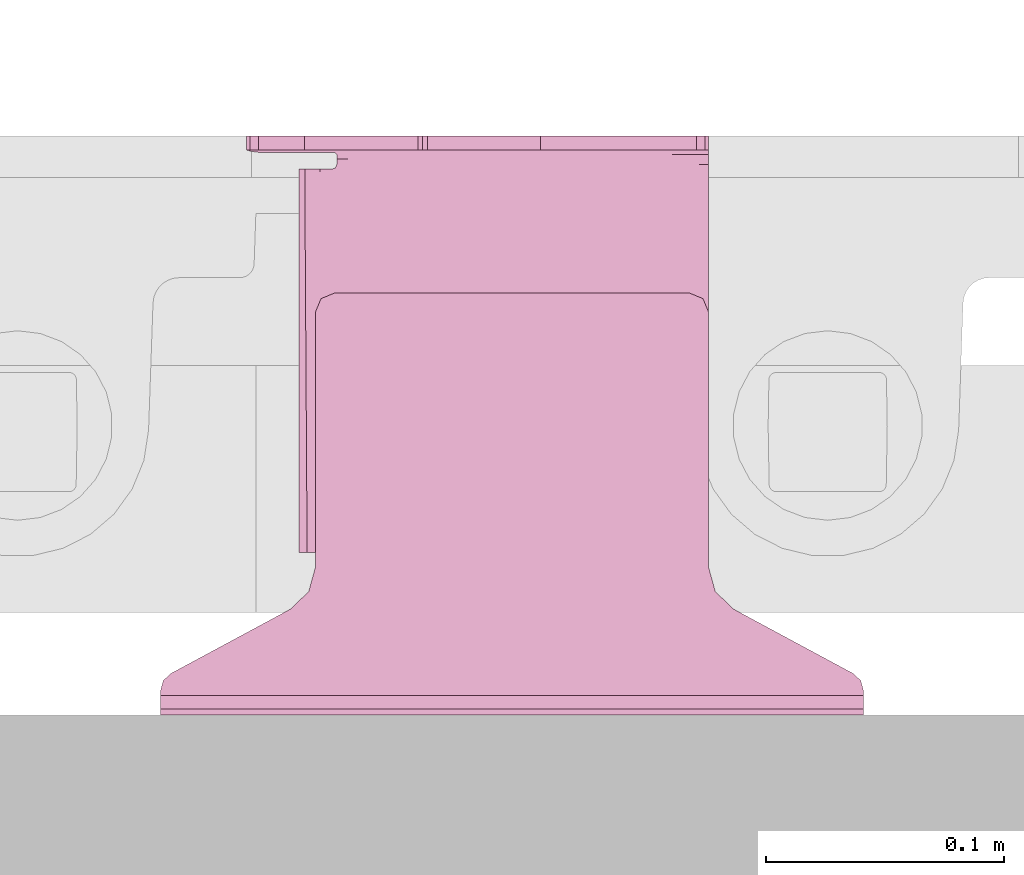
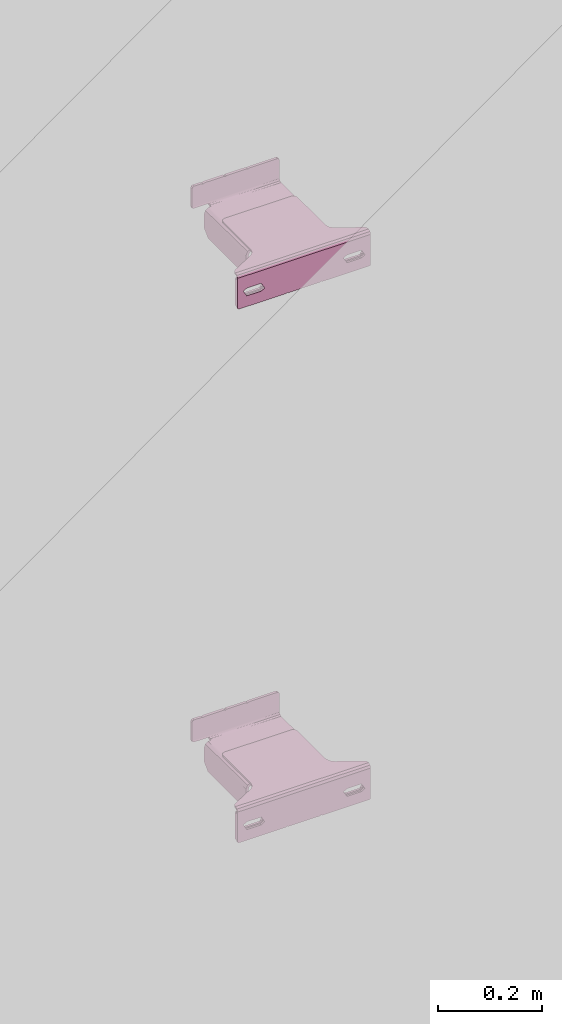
# One storey, part 11 of 15: 2 transport elements.
"""IFC2X3 building model written with IfcOpenShell, lengths in millimetres."""

from ifc_helpers import new_model, entity, si_unit, converted_unit, derived_unit, direction, frame, origin, place, context, subcontext, project, spatial, faceted_brep, source, transform, mapped, material, type_object, type_shapes, element, save


model = new_model("IFC2X3")

# Units and contexts
model_context = context("Model", 3, precision=0.01, world=origin(), true_north=direction((6.12303176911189e-17, 1.0)))
body_context = subcontext(model_context, "Body", "Model", "MODEL_VIEW")
ifc_project = project(units=[si_unit("LENGTHUNIT", "METRE", prefix="MILLI"), si_unit("AREAUNIT", "SQUARE_METRE"), si_unit("VOLUMEUNIT", "CUBIC_METRE"), converted_unit("PLANEANGLEUNIT", "DEGREE", entity("IfcRatioMeasure", 0.0174532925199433), si_unit("PLANEANGLEUNIT", "RADIAN"), dimensions=[0, 0, 0, 0, 0, 0, 0]), si_unit("MASSUNIT", "GRAM", prefix="KILO"), derived_unit("MASSDENSITYUNIT", [(si_unit("MASSUNIT", "GRAM", prefix="KILO"), 1), (si_unit("LENGTHUNIT", "METRE"), -3)]), si_unit("TIMEUNIT", "SECOND"), si_unit("FREQUENCYUNIT", "HERTZ"), si_unit("THERMODYNAMICTEMPERATUREUNIT", "DEGREE_CELSIUS"), derived_unit("THERMALTRANSMITTANCEUNIT", [(si_unit("MASSUNIT", "GRAM", prefix="KILO"), 1), (si_unit("THERMODYNAMICTEMPERATUREUNIT", "KELVIN"), -1), (si_unit("TIMEUNIT", "SECOND"), -3)]), derived_unit("VOLUMETRICFLOWRATEUNIT", [(si_unit("LENGTHUNIT", "METRE"), 3), (si_unit("TIMEUNIT", "SECOND"), -1)]), si_unit("ELECTRICCURRENTUNIT", "AMPERE"), si_unit("ELECTRICVOLTAGEUNIT", "VOLT"), si_unit("POWERUNIT", "WATT"), si_unit("FORCEUNIT", "NEWTON", prefix="KILO"), si_unit("ILLUMINANCEUNIT", "LUX"), si_unit("LUMINOUSFLUXUNIT", "LUMEN"), si_unit("LUMINOUSINTENSITYUNIT", "CANDELA"), derived_unit("USERDEFINED", [(si_unit("MASSUNIT", "GRAM", prefix="KILO"), -1), (si_unit("LENGTHUNIT", "METRE"), -2), (si_unit("TIMEUNIT", "SECOND"), 3), (si_unit("LUMINOUSFLUXUNIT", "LUMEN"), 1)]), derived_unit("LINEARVELOCITYUNIT", [(si_unit("LENGTHUNIT", "METRE"), 1), (si_unit("TIMEUNIT", "SECOND"), -1)]), si_unit("PRESSUREUNIT", "PASCAL"), derived_unit("USERDEFINED", [(si_unit("LENGTHUNIT", "METRE"), -2), (si_unit("MASSUNIT", "GRAM", prefix="KILO"), 1), (si_unit("TIMEUNIT", "SECOND"), -2)])], contexts=[model_context])

# Site, building, storey, space
site_placement = place(None, frame((-151.875543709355, 2715.0, 0.0)))
site = spatial("IfcSite", under=ifc_project, at=site_placement, Name="Surface", CompositionType="ELEMENT")
building_placement = place(site_placement, origin())
building = spatial("IfcBuilding", under=site, at=building_placement, CompositionType="ELEMENT")
storey_placement = place(building_placement, frame((0.0, 0.0, 7670.0)))
storey = spatial("IfcBuildingStorey", under=building, at=storey_placement, Name="uus 3 korrus", CompositionType="ELEMENT", Elevation=7670.00000000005)
space_placement = place(storey_placement, origin())
space = spatial("IfcSpace", under=storey, at=space_placement, Name="327a", CompositionType="ELEMENT", InteriorOrExteriorSpace="INTERNAL")

# Transport elements
ifc_material = material(Name="Generic")
transport_element_type = type_object("IfcTransportElementType", Name="KONE_Combination_Bracket_KM51029396V002_L184-394_LH", material=ifc_material)
shared_shape = source(origin(), body_context, "Body", "Brep", [
    faceted_brep([(194.368600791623, 50.557014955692, -243.0), (197.904134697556, 49.0925488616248, -243.0), (199.368600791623, 45.5570149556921, -243.0), (199.368600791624, 2.55701495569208, -243.0), (5.401799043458, 2.55701495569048, -243.0), (5.37690725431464, 2.84414737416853, -243.0), (5.36860079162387, 3.13223699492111, -243.0), (5.36860079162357, 45.5570149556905, -243.0), (6.83306688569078, 49.0925488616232, -243.0), (10.3686007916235, 50.5570149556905, -243.0), (25.7152888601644, 50.5570149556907, -243.0), (29.8686007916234, 49.0570149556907, -243.0), (34.0219127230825, 50.5570149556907, -243.0), (77.3686007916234, 50.5570149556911, -243.0), (79.3686007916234, 48.5570149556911, -243.0), (81.3686007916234, 50.5570149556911, -243.0), (124.715288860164, 50.5570149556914, -243.0), (128.868600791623, 49.0570149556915, -243.0), (133.021912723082, 50.5570149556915, -243.0), (5.40179904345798, 2.55701495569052, -240.954929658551), (5.40179904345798, 2.55701495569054, -238.909859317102), (5.40179904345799, 2.55701495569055, -237.0), (5.37690725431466, 2.84414737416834, -237.0), (5.36860079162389, 3.13223699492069, -237.0), (39.3686007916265, -9.44298504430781, -68.0), (39.3686007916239, -9.44298504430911, -229.0), (41.3686007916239, -9.4429850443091, -229.0), (42.7828143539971, -9.44298504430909, -229.585786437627), (43.3686007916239, -9.4429850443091, -231.0), (199.368600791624, -9.44298504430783, -231.0), (199.368600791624, -9.44298504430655, -73.0), (197.904134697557, -9.44298504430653, -69.4644660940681), (194.368600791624, -9.44298504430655, -68.0), (33.3686007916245, -61.9785189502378, -81.535533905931), (33.3686007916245, -63.0623827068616, -83.1576506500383), (33.3686007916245, -63.442985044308, -85.0710678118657), (33.3686007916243, -63.442985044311, -211.928932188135), (33.3686007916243, -63.0623827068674, -213.84234934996), (33.3686007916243, -61.9785189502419, -215.464466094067), (33.3686007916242, -49.9074511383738, -227.535533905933), (33.3686007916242, -48.2853343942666, -228.619397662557), (33.3686007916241, -46.3719172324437, -229.0), (33.3686007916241, -37.0182070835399, -229.0), (33.3686007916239, -15.4429850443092, -229.0), (33.3686007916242, -15.4429850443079, -68.0), (33.3686007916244, -46.3719172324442, -68.0), (33.3686007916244, -48.2853343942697, -68.3806023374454), (33.3686007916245, -49.9074511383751, -69.4644660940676), (41.3686007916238, -3.8111214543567, -241.170881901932), (199.368600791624, -5.92826641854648, -239.485281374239), (6.40766390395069, -1.13745775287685, -242.417130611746), (10.3686007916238, -3.81112145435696, -241.170881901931), (8.29850844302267, -2.41379275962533, -241.822205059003), (43.3686007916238, -8.59019143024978, -235.442948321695), (43.3686007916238, -6.15302007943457, -239.254410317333), (43.1522088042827, -5.4728628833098, -239.865440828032), (42.912766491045, -4.72025455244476, -240.541559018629), (42.1406836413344, -4.26568800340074, -240.85622046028), (34.6248743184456, -11.7691506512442, -229.0), (35.1259601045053, -11.2003443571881, -68.0), (37.867620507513, -9.63376322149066, -229.0), (38.612072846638, -9.49087067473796, -229.0), (5.36860079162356, 45.5570149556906, -237.0), (6.8330668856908, 49.0925488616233, -237.0), (10.3686007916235, 50.5570149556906, -237.0), (199.368600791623, 45.5570149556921, -237.0), (199.368600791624, 2.55701495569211, -237.0), (199.368600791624, -1.68562573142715, -235.24264068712), (199.368600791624, -3.44298504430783, -231.0), (199.368600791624, -3.44298504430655, -73.0), (194.368600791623, 50.5570149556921, -237.0), (197.904134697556, 49.0925488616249, -237.0), (124.715288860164, 50.5570149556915, -237.0), (81.3686007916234, 50.5570149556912, -237.0), (133.021912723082, 50.5570149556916, -237.0), (77.3686007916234, 50.5570149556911, -237.0), (34.0219127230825, 50.5570149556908, -237.0), (25.7152888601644, 50.5570149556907, -237.0), (128.868600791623, 49.0570149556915, -237.0), (79.3686007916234, 48.5570149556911, -237.0), (29.8686007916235, 49.0570149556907, -237.0), (39.3686007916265, -6.44298504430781, -68.0), (194.368600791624, -3.44298504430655, -68.0), (39.3686007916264, -3.44298504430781, -68.0), (30.883319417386, -6.9577036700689, -68.0), (27.3686007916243, -15.4429850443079, -68.0), (27.3686007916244, -46.3719172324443, -68.0), (197.904134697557, -3.44298504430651, -69.4644660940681), (27.3686007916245, -46.3719172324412, -229.0), (27.3686007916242, -48.2853343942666, -228.619397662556), (27.3686007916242, -49.9074511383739, -227.535533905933), (27.3686007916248, -61.9785189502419, -215.464466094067), (27.3686007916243, -63.4429850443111, -211.928932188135), (27.3686007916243, -63.0623827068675, -213.84234934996), (27.368600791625, -63.442985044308, -85.0710678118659), (27.3686007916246, -63.0623827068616, -83.1576506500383), (27.3686007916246, -61.9785189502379, -81.5355339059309), (27.3686007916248, -49.9074511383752, -69.4644660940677), (27.3686007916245, -48.2853343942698, -68.3806023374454), (42.782814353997, -3.44298504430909, -229.585786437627), (41.3686007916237, -3.44298504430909, -229.0), (39.3686007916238, -3.44298504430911, -229.0), (43.3686007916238, -3.44298504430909, -231.0), (27.3686007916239, -15.4429850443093, -229.0), (27.3686007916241, -37.01820708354, -229.0), (41.3686007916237, -0.62705324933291, -236.085440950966), (6.19050436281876, 1.51354044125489, -236.776221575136), (7.26141212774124, 0.0967058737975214, -236.472374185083), (10.3686007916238, -0.627053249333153, -236.085440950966), (43.3686007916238, -3.01658823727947, -233.221474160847), (43.3686007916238, -1.79800256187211, -235.127205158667), (42.6856009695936, -0.938930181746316, -235.876306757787), (29.8811478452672, -8.09531625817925, -229.0), (36.366640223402, -3.82454139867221, -229.0), (37.855544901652, -3.53875630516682, -229.0), (30.3686007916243, -37.01820708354, -229.0), (30.368600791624, -15.4429850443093, -229.0), (37.1171303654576, -6.72915231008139, -229.0), (10.3686007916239, -2.7497653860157, -239.475734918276), (41.3686007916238, -3.03001105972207, -239.923329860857), (41.3686007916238, -1.68840931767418, -237.780587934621), (10.3686007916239, -1.68840931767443, -237.780587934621), (43.3686007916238, -2.86998689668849, -236.143113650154), (43.3686007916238, -4.70134757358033, -237.878675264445), (42.9506306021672, -3.05278886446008, -238.263482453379), (42.3310011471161, -2.020127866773, -237.825190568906), (42.96220815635, -2.04723230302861, -236.93741785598), (42.2377280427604, -2.95461684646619, -239.328855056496), (8.43695178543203, -1.96418230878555, -239.076862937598), (6.5068444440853, 0.111398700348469, -238.170030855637), (6.58437608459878, -0.560185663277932, -239.802254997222), (8.3377752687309, -1.05787869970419, -237.540730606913)], [[[0, 1, 2, 3, 4, 5, 6, 7, 8, 9, 10, 11, 12, 13, 14, 15, 16, 17, 18]], [[19, 20, 21, 22, 5, 4]], [[22, 23, 6, 5]], [[24, 25, 26, 27, 28, 29, 30, 31, 32]], [[33, 34, 35, 36, 37, 38, 39, 40, 41, 42, 43, 44, 45, 46, 47]], [[3, 48, 4]], [[48, 3, 49]], [[48, 50, 4]], [[48, 51, 52, 50]], [[49, 29, 53]], [[53, 29, 28]], [[49, 53, 54]], [[49, 54, 55, 56]], [[49, 56, 57, 48]], [[58, 59, 44]], [[44, 43, 58]], [[58, 60, 59]], [[61, 24, 60]], [[59, 60, 24]], [[24, 61, 25]], [[7, 62, 63, 8]], [[63, 64, 9, 8]], [[6, 23, 62, 7]], [[65, 66, 67, 68, 69, 30, 29, 49, 3, 2]], [[0, 70, 71, 1]], [[71, 65, 2, 1]], [[72, 16, 15, 73]], [[0, 18, 74, 70]], [[75, 13, 12, 76]], [[10, 9, 64, 77]], [[17, 78, 74, 18]], [[16, 72, 78, 17]], [[15, 14, 79, 73]], [[75, 79, 14, 13]], [[11, 80, 76, 12]], [[10, 77, 80, 11]], [[81, 32, 82]], [[32, 81, 24]], [[81, 82, 83]], [[59, 24, 81]], [[83, 84, 81]], [[81, 84, 59]], [[84, 85, 59]], [[59, 85, 44]], [[85, 45, 44]], [[45, 85, 86]], [[30, 69, 87, 31]], [[87, 82, 32, 31]], [[88, 41, 40, 89]], [[40, 39, 90, 89]], [[39, 38, 91, 90]], [[36, 92, 93, 37]], [[93, 91, 38, 37]], [[94, 92, 36, 35]], [[94, 35, 34, 95]], [[34, 33, 96, 95]], [[97, 96, 33, 47]], [[45, 86, 98, 46]], [[98, 97, 47, 46]], [[66, 65, 71, 70, 74, 78, 72, 73, 79, 75, 76, 80, 77, 64, 63, 62, 23, 22, 21]], [[99, 100, 101, 83, 82, 87, 69, 68, 102]], [[94, 95, 96, 97, 98, 86, 85, 103, 104, 88, 89, 90, 91, 93, 92]], [[21, 105, 66]], [[67, 66, 105]], [[105, 21, 106, 107]], [[108, 105, 107]], [[109, 68, 67]], [[102, 68, 109]], [[110, 109, 67]], [[67, 111, 110]], [[105, 111, 67]], [[85, 84, 112]], [[112, 103, 85]], [[84, 113, 112]], [[113, 83, 114]], [[83, 113, 84]], [[101, 114, 83]], [[115, 88, 104]], [[88, 115, 41]], [[42, 41, 115]], [[115, 104, 103]], [[116, 115, 103]], [[116, 43, 115]], [[42, 115, 43]], [[43, 116, 58]], [[112, 116, 103]], [[112, 58, 116]], [[58, 112, 117]], [[117, 112, 113]], [[114, 117, 113]], [[101, 117, 114]], [[25, 117, 101]], [[25, 101, 100]], [[100, 26, 25]], [[61, 117, 25]], [[60, 117, 61]], [[117, 60, 58]], [[118, 51, 48, 119, 120, 105, 108, 121]], [[54, 53, 28, 102, 109, 110, 122, 123]], [[56, 55, 124]], [[120, 125, 105]], [[126, 122, 110]], [[124, 123, 122]], [[55, 123, 124]], [[125, 124, 126]], [[127, 57, 56]], [[124, 125, 127]], [[127, 119, 57]], [[105, 125, 111]], [[119, 127, 120]], [[127, 125, 120]], [[124, 127, 56]], [[119, 48, 57]], [[111, 125, 126]], [[111, 126, 110]], [[126, 124, 122]], [[55, 54, 123]], [[99, 27, 26, 100]], [[102, 28, 27, 99]], [[128, 118, 121]], [[20, 129, 106]], [[52, 118, 128]], [[52, 130, 50]], [[128, 121, 131]], [[131, 130, 128]], [[19, 130, 20]], [[129, 131, 107]], [[50, 19, 4]], [[50, 130, 19]], [[20, 106, 21]], [[107, 131, 108]], [[52, 128, 130]], [[129, 107, 106]], [[129, 20, 130]], [[52, 51, 118]], [[131, 129, 130]], [[108, 131, 121]]]),
    faceted_brep([(199.368600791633, 0.557014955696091, -169.0), (197.025455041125, 0.557014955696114, -174.656854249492), (191.368600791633, 0.557014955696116, -177.0), (42.3686007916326, 0.557014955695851, -177.0), (36.7117465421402, 0.55701495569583, -174.656854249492), (34.3686007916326, 0.557014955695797, -169.0), (34.3686007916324, 0.557014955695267, -61.945881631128), (32.9537618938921, 0.557014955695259, -56.81801571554), (31.5389229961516, 0.557014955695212, -51.690149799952), (27.3345887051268, 0.557014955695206, -47.6688098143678), (23.8505972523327, 0.557014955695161, -44.3364596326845), (-26.4241977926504, 0.557014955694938, -17.2654161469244), (-29.4995280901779, 0.557014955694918, -14.3239400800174), (-30.6313992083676, 0.557014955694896, -10.2216473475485), (-30.6313992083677, 0.557014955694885, -8.0), (264.368600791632, 0.557014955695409, -8.0), (264.368600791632, 0.55701495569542, -10.221647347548), (263.23672967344, 0.557014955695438, -14.3239400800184), (260.161399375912, 0.557014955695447, -17.2654161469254), (209.886604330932, 0.557014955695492, -44.3364596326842), (206.042441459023, 0.55701495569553, -48.0133047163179), (202.198278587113, 0.557014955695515, -51.6901497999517), (200.6508790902, 0.557014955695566, -57.2984612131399), (199.368600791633, 0.55701495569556, -61.9458816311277), (-30.6313992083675, -77.4429850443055, 0.0), (-29.7527195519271, -79.5643053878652, 0.0), (-27.6313992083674, -80.4429850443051, 0.0), (-10.1313992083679, -55.4429850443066, 0.0), (-17.9256278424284, -41.9429850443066, 0.0), (-30.6313992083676, -7.44298504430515, 0.0), (21.8686007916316, -55.4429850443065, 0.0), (77.3686007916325, -80.442985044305, 0.0), (29.6628294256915, -50.9429850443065, 0.0), (79.3686007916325, -78.4429850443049, 0.0), (21.8686007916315, -37.4429850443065, 0.0), (204.074372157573, -41.9429850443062, 0.0), (154.368600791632, -78.4429850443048, 0.0), (81.3686007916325, -80.4429850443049, 0.0), (152.368600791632, -80.4429850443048, 0.0), (156.368600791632, -80.4429850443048, 0.0), (211.868600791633, -55.4429850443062, 0.0), (261.368600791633, -80.442985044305, 0.0), (243.868600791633, -55.4429850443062, 0.0), (264.368600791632, -77.4429850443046, 0.0), (263.489921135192, -79.5643053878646, 0.0), (251.662829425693, -50.9429850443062, 0.0), (264.368600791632, -7.44298504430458, 0.0), (243.868600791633, -37.4429850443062, 0.0), (211.868600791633, -37.4429850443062, 0.0), (-10.1313992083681, -37.4429850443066, 0.0), (-30.6313992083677, -1.78613079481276, -2.34314575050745), (264.368600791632, -1.78613079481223, -2.34314575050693), (264.368600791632, -4.61455791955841, -5.17157287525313), (-30.6313992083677, -4.61455791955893, -5.17157287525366), (-30.6313992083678, -3.44298504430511, -8.0), (264.368600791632, -3.44298504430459, -8.0), (264.368600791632, -7.44298504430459, -4.0), (-30.6313992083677, -7.44298504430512, -4.0), (264.368600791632, -3.44298504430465, -10.221647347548), (264.368600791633, -77.4429850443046, -4.0), (-30.6313992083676, -3.44298504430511, -10.2216473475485), (-30.6313992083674, -77.4429850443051, -4.0), (23.8505972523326, -3.44298504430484, -44.3364596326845), (-26.4241977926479, -3.44298504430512, -17.2654161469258), (34.3686007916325, -3.44298504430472, -61.945881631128), (32.9537618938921, -3.44298504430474, -56.81801571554), (31.5389229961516, -3.44298504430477, -51.690149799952), (27.6947601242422, -3.4429850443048, -48.0133047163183), (34.3686007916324, -3.44298504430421, -169.0), (42.3686007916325, -3.44298504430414, -177.0), (36.7117465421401, -3.44298504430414, -174.656854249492), (191.368600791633, -3.44298504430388, -177.0), (199.368600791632, -3.44298504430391, -169.0), (197.025455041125, -3.44298504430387, -174.656854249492), (199.368600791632, -3.44298504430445, -61.9458816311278), (209.886604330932, -3.44298504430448, -44.3364596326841), (206.042441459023, -3.44298504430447, -48.0133047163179), (202.198278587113, -3.44298504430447, -51.6901497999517), (200.783439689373, -3.44298504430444, -56.8180157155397), (260.161399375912, -3.44298504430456, -17.2654161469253), (263.23672967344, -3.44298504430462, -14.3239400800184), (-29.499528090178, -3.44298504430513, -14.3239400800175), (-10.1313992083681, -37.4429850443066, -4.0), (21.8686007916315, -37.4429850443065, -4.0), (211.868600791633, -37.4429850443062, -4.0), (243.868600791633, -37.4429850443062, -4.0), (-17.9256278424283, -41.9429850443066, -4.0), (-10.1313992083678, -55.4429850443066, -4.0), (21.8686007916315, -55.4429850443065, -4.0), (243.868600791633, -55.4429850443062, -4.0), (211.868600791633, -55.4429850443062, -4.0), (29.6628294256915, -50.9429850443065, -4.0), (251.662829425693, -50.9429850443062, -4.0), (204.074372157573, -41.9429850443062, -4.0), (-27.6313992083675, -80.4429850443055, -4.0), (-29.7527195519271, -79.5643053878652, -4.0), (77.3686007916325, -80.4429850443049, -4.0), (261.368600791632, -80.4429850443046, -4.0), (263.489921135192, -79.5643053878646, -4.0), (156.368600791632, -80.4429850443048, -4.0), (154.368600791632, -78.4429850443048, -4.0), (79.3686007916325, -78.442985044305, -4.0), (81.3686007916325, -80.4429850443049, -4.0), (152.368600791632, -80.4429850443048, -4.0)], [[[0, 1, 2, 3, 4, 5, 6, 7, 8, 9, 10, 11, 12, 13, 14, 15, 16, 17, 18, 19, 20, 21, 22, 23]], [[24, 25, 26]], [[27, 24, 26]], [[27, 28, 24]], [[28, 29, 24]], [[27, 26, 30]], [[26, 31, 30]], [[32, 30, 31]], [[33, 32, 31]], [[32, 33, 34]], [[33, 35, 34]], [[36, 35, 33]], [[33, 37, 36]], [[38, 36, 37]], [[35, 36, 39]], [[40, 35, 39]], [[40, 39, 41]], [[40, 41, 42]], [[42, 41, 43]], [[41, 44, 43]], [[45, 42, 43]], [[45, 43, 46]], [[29, 34, 46]], [[46, 47, 45]], [[47, 46, 48]], [[48, 46, 34]], [[49, 34, 29]], [[35, 48, 34]], [[49, 29, 28]], [[15, 14, 50, 51]], [[50, 29, 46, 51]], [[52, 53, 54, 55]], [[56, 57, 53, 52]], [[52, 55, 58, 16, 15, 51, 46, 43, 59, 56]], [[14, 13, 60, 54, 53, 57, 61, 24, 29, 50]], [[10, 62, 63, 11]], [[64, 65, 66, 8, 7, 6]], [[66, 67, 62, 10, 9, 8]], [[5, 68, 64, 6]], [[3, 69, 70, 4]], [[70, 68, 5, 4]], [[2, 71, 69, 3]], [[0, 72, 73, 1]], [[73, 71, 2, 1]], [[74, 72, 0, 23]], [[75, 76, 77, 21, 20, 19]], [[77, 78, 74, 23, 22, 21]], [[18, 79, 75, 19]], [[16, 58, 80, 17]], [[80, 79, 18, 17]], [[11, 63, 81, 12]], [[81, 60, 13, 12]], [[74, 78, 77, 76, 75, 79, 80, 58, 55, 54, 60, 81, 63, 62, 67, 66, 65, 64, 68, 70, 69, 71, 73, 72]], [[49, 82, 83, 34]], [[48, 84, 85, 47]], [[28, 86, 82, 49]], [[27, 87, 86, 28]], [[30, 88, 87, 27]], [[42, 89, 90, 40]], [[32, 91, 88, 30]], [[34, 83, 91, 32]], [[45, 92, 89, 42]], [[47, 85, 92, 45]], [[35, 93, 84, 48]], [[40, 90, 93, 35]], [[94, 95, 61]], [[94, 61, 87]], [[88, 94, 87]], [[88, 96, 94]], [[61, 86, 87]], [[61, 57, 86]], [[86, 57, 82]], [[57, 83, 82]], [[56, 83, 57]], [[83, 56, 84]], [[84, 56, 85]], [[92, 85, 56]], [[56, 59, 92]], [[59, 89, 92]], [[59, 97, 89]], [[59, 98, 97]], [[89, 97, 90]], [[97, 99, 90]], [[99, 93, 90]], [[99, 100, 93]], [[101, 93, 100]], [[100, 102, 101]], [[102, 100, 103]], [[96, 91, 101]], [[83, 101, 91]], [[83, 93, 101]], [[96, 88, 91]], [[83, 84, 93]], [[39, 99, 97, 41]], [[94, 96, 31, 26]], [[102, 103, 38, 37]], [[36, 38, 103, 100]], [[101, 102, 37, 33]], [[33, 31, 96, 101]], [[100, 99, 39, 36]], [[41, 97, 98, 44]], [[98, 59, 43, 44]], [[24, 61, 95, 25]], [[95, 94, 26, 25]]]),
    faceted_brep([(-27.6313992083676, -78.4429850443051, -9.0), (-29.7527195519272, -77.5643053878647, -9.0), (-30.6313992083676, -75.4429850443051, -9.0), (-11.1313992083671, -52.4429850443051, -9.0), (22.8686007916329, -52.442985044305, -9.0), (74.3686007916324, -78.4429850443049, -9.0), (-18.0596024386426, -48.4429850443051, -9.0), (-30.6313992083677, -13.4429850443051, -9.0), (-11.1313992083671, -36.4429850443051, -9.0), (-27.6313992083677, -10.4429850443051, -9.0), (-29.7527195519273, -11.3216647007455, -9.0), (22.8686007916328, -36.442985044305, -9.0), (261.368600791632, -10.4429850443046, -9.0), (210.868600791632, -36.4429850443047, -9.0), (244.868600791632, -36.4429850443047, -9.0), (264.368600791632, -13.4429850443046, -9.0), (263.489921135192, -11.3216647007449, -9.0), (251.796804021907, -40.4429850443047, -9.0), (264.368600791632, -75.4429850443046, -9.0), (244.868600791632, -52.4429850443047, -9.0), (261.368600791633, -78.4429850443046, -9.0), (263.489921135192, -77.5643053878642, -9.0), (210.868600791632, -52.4429850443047, -9.0), (159.368600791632, -78.4429850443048, -9.0), (203.940397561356, -48.4429850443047, -9.0), (154.368600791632, -68.4429850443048, -9.0), (29.7968040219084, -40.442985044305, -9.0), (79.3686007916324, -68.4429850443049, -9.0), (149.368600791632, -78.4429850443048, -9.0), (84.3686007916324, -78.4429850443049, -9.0), (-30.6313992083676, -75.4429850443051, -4.0), (-29.7527195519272, -77.5643053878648, -4.0), (-27.6313992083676, -78.4429850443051, -4.0), (-11.1313992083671, -52.4429850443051, -4.0), (-18.0596024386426, -40.4429850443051, -4.0), (-30.6313992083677, -13.4429850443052, -4.0), (22.8686007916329, -52.4429850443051, -4.0), (74.3686007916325, -78.442985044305, -4.0), (29.7968040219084, -48.442985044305, -4.0), (79.3686007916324, -68.4429850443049, -4.0), (22.8686007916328, -36.4429850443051, -4.0), (203.940397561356, -40.4429850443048, -4.0), (154.368600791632, -68.4429850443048, -4.0), (149.368600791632, -78.4429850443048, -4.0), (84.3686007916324, -78.442985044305, -4.0), (159.368600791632, -78.4429850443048, -4.0), (210.868600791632, -52.4429850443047, -4.0), (261.368600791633, -78.4429850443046, -4.0), (244.868600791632, -52.4429850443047, -4.0), (264.368600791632, -75.4429850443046, -4.0), (263.489921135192, -77.5643053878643, -4.0), (251.796804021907, -48.4429850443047, -4.0), (264.368600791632, -13.4429850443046, -4.0), (244.868600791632, -36.4429850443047, -4.0), (261.368600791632, -10.4429850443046, -4.0), (263.489921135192, -11.321664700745, -4.0), (-27.6313992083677, -10.4429850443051, -4.0), (210.868600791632, -36.4429850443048, -4.0), (-11.1313992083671, -36.4429850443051, -4.0), (-29.7527195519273, -11.3216647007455, -4.0)], [[[0, 1, 2]], [[3, 0, 2]], [[3, 4, 0]], [[4, 5, 0]], [[6, 3, 2]], [[2, 7, 6]], [[8, 6, 7]], [[8, 7, 9]], [[7, 10, 9]], [[9, 11, 8]], [[12, 11, 9]], [[11, 12, 13]], [[12, 14, 13]], [[14, 12, 15]], [[15, 12, 16]], [[17, 14, 15]], [[18, 17, 15]], [[17, 18, 19]], [[20, 19, 18]], [[18, 21, 20]], [[20, 22, 19]], [[22, 20, 23]], [[23, 24, 22]], [[23, 25, 24]], [[25, 13, 24]], [[26, 13, 25]], [[25, 27, 26]], [[27, 25, 28]], [[27, 28, 29]], [[27, 5, 26]], [[5, 4, 26]], [[13, 26, 11]], [[30, 31, 32]], [[30, 32, 33]], [[30, 33, 34]], [[34, 35, 30]], [[32, 36, 33]], [[32, 37, 36]], [[38, 36, 37]], [[38, 37, 39]], [[38, 39, 40]], [[39, 41, 40]], [[41, 39, 42]], [[43, 42, 39]], [[44, 43, 39]], [[41, 42, 45]], [[46, 41, 45]], [[45, 47, 46]], [[48, 46, 47]], [[49, 48, 47]], [[47, 50, 49]], [[48, 49, 51]], [[52, 51, 49]], [[52, 53, 51]], [[52, 54, 53]], [[55, 54, 52]], [[56, 40, 54]], [[57, 53, 54]], [[57, 54, 40]], [[58, 40, 56]], [[57, 40, 41]], [[56, 35, 58]], [[56, 59, 35]], [[35, 34, 58]], [[54, 12, 9, 56]], [[7, 2, 30, 35]], [[32, 0, 5, 37]], [[44, 29, 28, 43]], [[45, 23, 20, 47]], [[52, 49, 18, 15]], [[7, 35, 59, 10]], [[59, 56, 9, 10]], [[0, 32, 31, 1]], [[31, 30, 2, 1]], [[18, 49, 50, 21]], [[50, 47, 20, 21]], [[12, 54, 55, 16]], [[55, 52, 15, 16]], [[58, 34, 8]], [[6, 8, 34]], [[33, 3, 6]], [[34, 33, 6]], [[4, 3, 33, 36]], [[48, 19, 22, 46]], [[36, 38, 4]], [[26, 4, 38]], [[40, 11, 26]], [[38, 40, 26]], [[8, 11, 40, 58]], [[13, 14, 53, 57]], [[57, 41, 13]], [[24, 13, 41]], [[46, 22, 24]], [[41, 46, 24]], [[48, 51, 19]], [[17, 19, 51]], [[53, 14, 17]], [[51, 53, 17]], [[39, 37, 5, 27]], [[27, 29, 44, 39]], [[43, 28, 25, 42]], [[23, 45, 42, 25]]]),
])
type_shapes(transport_element_type, [shared_shape])
for number, where, z_axis, x_axis in (
    (1, (30677.2491663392, 19660.0, 1781.44332552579), (0.0, -1.0, 0.0), (1.0, 0.0, 0.0)),
    (2, (30677.2491663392, 19660.0, 3031.44336552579), (0.0, -1.0, 0.0), (1.0, 0.0, 0.0)),
):
    element("IfcTransportElement", number, at=place(space_placement, frame(where, z_axis=z_axis, x_axis=x_axis)), inside=space, type_object=transport_element_type, material=ifc_material, Name="KONE_Combination_Bracket_KM51029396V002_L184-394_LH:KONE_Combination_Bracket_KM51029396V002_L184-394_LH", ObjectType="KONE_Combination_Bracket_KM51029396V002_L184-394_LH", CapacityByNumber=0.0, CapacityByWeight=0.0, OperationType="ELEVATOR", context=body_context, shape_type="MappedRepresentation", body=[
        mapped(shared_shape, transform((0.0, 0.0, 0.0), scale=1.0)),
    ])

save(model, "model.ifc")
